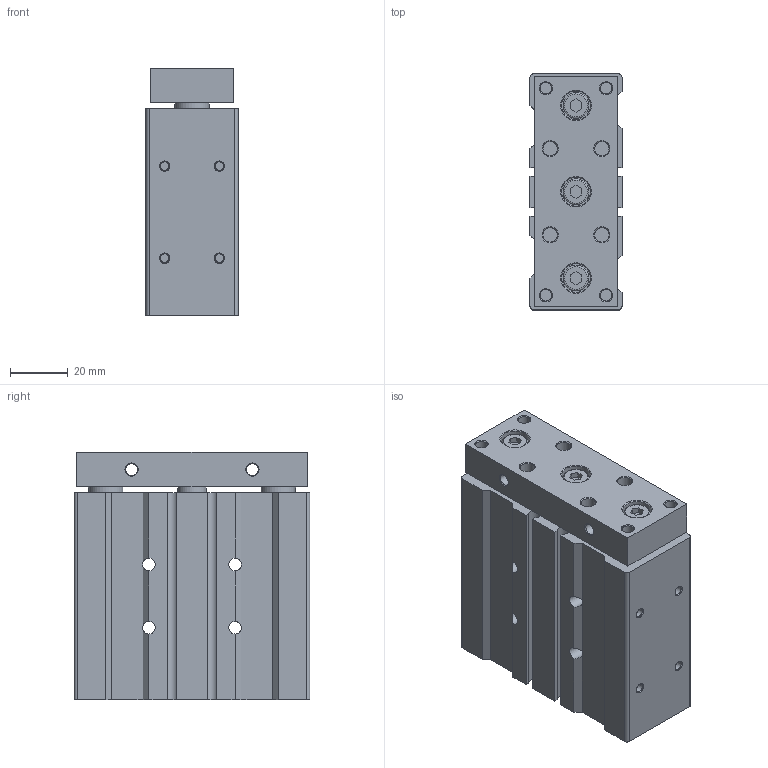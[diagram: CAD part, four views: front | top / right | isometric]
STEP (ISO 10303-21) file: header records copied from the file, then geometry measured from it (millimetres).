
FILE_DESCRIPTION((''),'2;1');
FILE_NAME('I:\3D電子目錄\氣缸\TB(U)\TB(U)20\TB(U)20\TB(U)20x25.stp','2007-08-06T08:22:15',('Administrator'),(''),'Autodesk Inventor 2008','Autodesk Inventor 2008','');
FILE_SCHEMA(('AUTOMOTIVE_DESIGN { 1 0 10303 214 1 1 1 1 }'));
Length unit declared in the file: millimetre
Products named in the file (1): TB(U)20X25
Bounding box: 32 x 82 x 86 mm (x, y, z)
Volume: 197000.1 mm3; surface area: 37921.5 mm2
Topology: 1 solids, 1 shells, 188 faces, 424 edges, 268 vertices
Faces by surface type: plane 90, cylinder 50, cone 37, bspline 8, torus 3
Full cylindrical faces by diameter (mm): 3 x4, 4 x6, 4.4 x4, 5 x10, 8 x4, 9 x3, 10 x4, 12 x4, 19 x2, 22 x1
Entity records: 4948 total; most frequent: CARTESIAN_POINT 875, DIRECTION 860, ORIENTED_EDGE 676, AXIS2_PLACEMENT_3D 341, EDGE_CURVE 338, EDGE_LOOP 336, VERTEX_POINT 268, FACE_OUTER_BOUND 188
